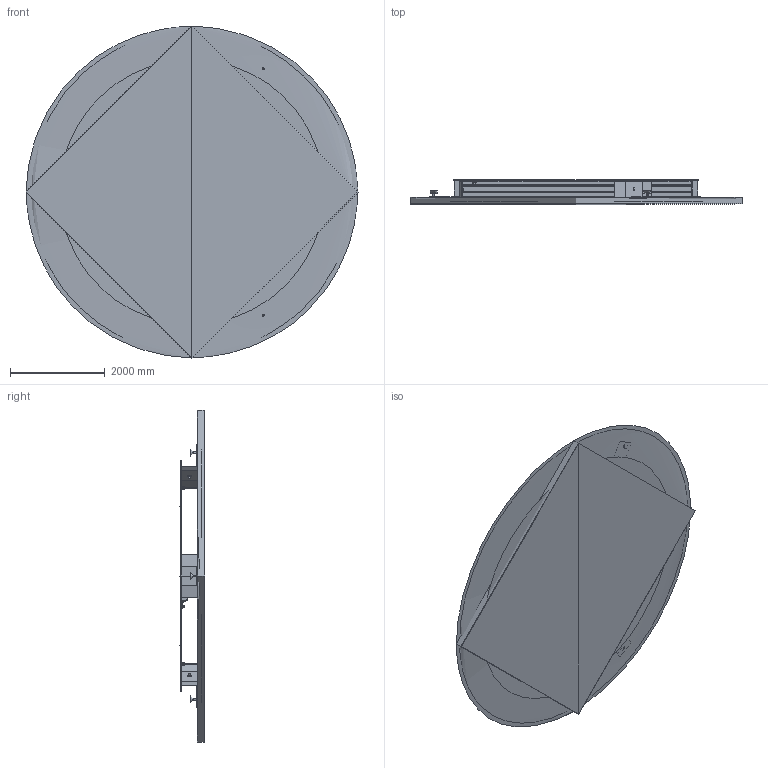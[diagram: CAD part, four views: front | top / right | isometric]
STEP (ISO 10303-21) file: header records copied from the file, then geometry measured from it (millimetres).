
FILE_DESCRIPTION(/* description */ (''),/* implementation_level */ '2;1');
FILE_NAME(/* name */ '4583',/* time_stamp */ '2022-02-01T16:42:19+01:00',/* author */ (''),/* organization */ (''),/* preprocessor_version */ 'ST-DEVELOPER v16.5',/* originating_system */ '',/* authorisation */ '');
FILE_SCHEMA (('CONFIG_CONTROL_DESIGN'));
Length unit declared in the file: centimetre
Products named in the file (3): Document; *U10; *U9
Assembly tree (4 placements, depth 3):
  Document
    *U10
      *U9  x3
Bounding box: 7000 x 528.26 x 7000 mm (x, y, z)
Volume: 3574982778.4 mm3; surface area: 158072592 mm2
Topology: 15 solids, 32 shells, 676 faces, 1805 edges, 1173 vertices
Faces by surface type: plane 321, cylinder 291, bspline 64
Entity records: 17288 total; most frequent: CARTESIAN_POINT 7228, ORIENTED_EDGE 2928, EDGE_CURVE 1522, VERTEX_POINT 988, B_SPLINE_CURVE_WITH_KNOTS 892, EDGE_LOOP 662, ADVANCED_FACE 566, FACE_OUTER_BOUND 566
